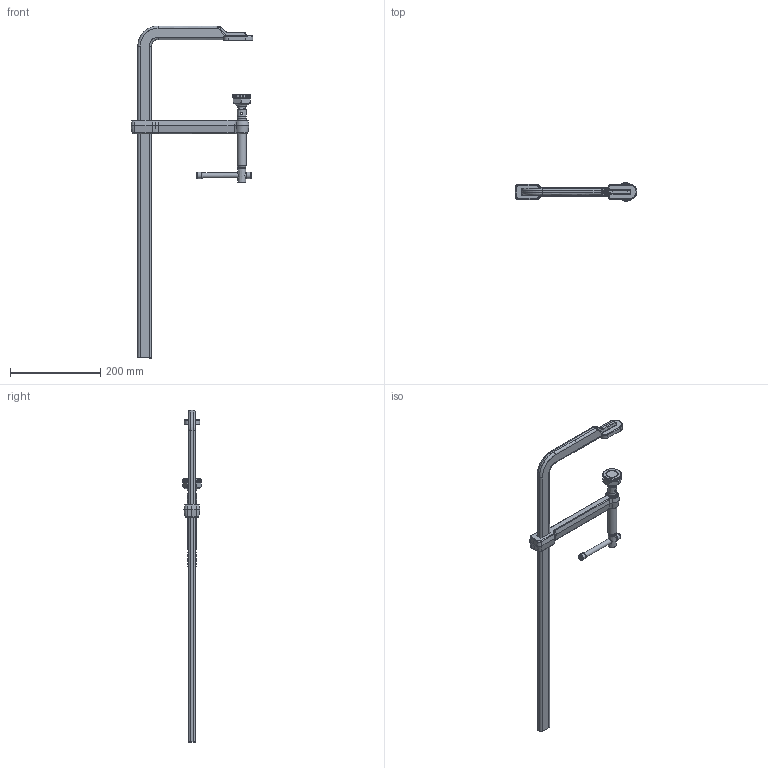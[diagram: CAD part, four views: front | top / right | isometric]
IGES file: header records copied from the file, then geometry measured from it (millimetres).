
Start section: ZWSOFT
Global section: file name: SG60T20M.igs; native system: ZW3D; preprocessor: 1.0; author: ZW3D; organization: ZWSOFT; date: 180122.102518; units: millimetre
Bounding box: 270.01 x 41.98 x 735 mm (x, y, z)
Surface area: 133453.6 mm2 (no closed solid volume)
Topology: 0 solids, 0 shells, 203 faces, 948 edges, 882 vertices
Faces by surface type: bspline 203
